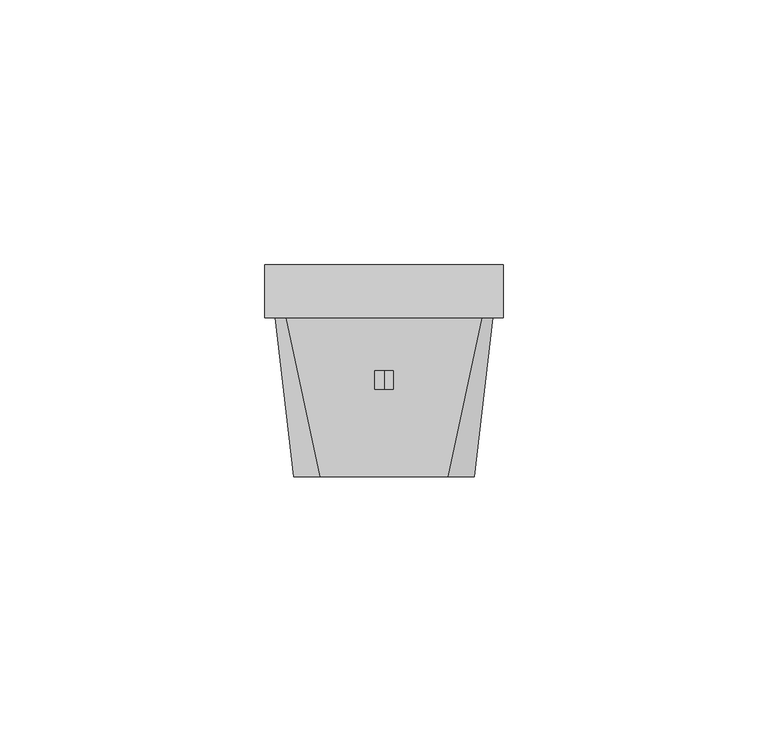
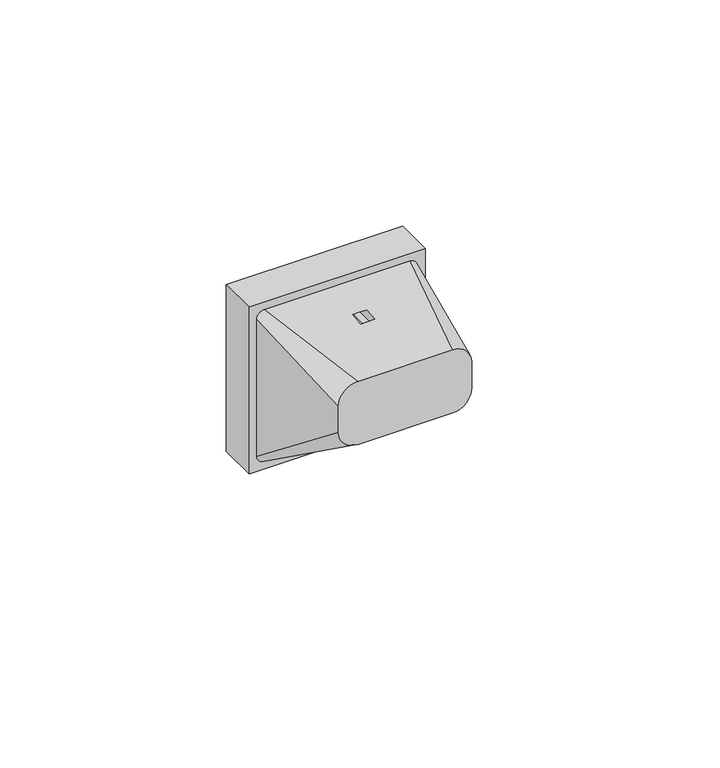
"""IFC4 building model written with IfcOpenShell, lengths in millimetres: proxy geometry, IEK_Skandy_Механизм розетки 230В : 230 В+шт._SK-R01B."""

from ifc_helpers import new_model, si_unit, point, frame, frame_2d, origin, origin_2d, place, context, project, spatial, polyline, circle_curve, ellipse_curve, trimmed, segment, composite_curve, outline, extrude, source, transform, mapped, element, save
from ifc_brep_helpers import plane_surface, cylinder_surface, revolved_surface, spline_surface, advanced_brep


def electrical_fixtures_3626f2ef(model_context):
    return source(origin(), model_context, "Body", "SolidModel", [
        advanced_brep(
        [(-12.0, -30.0, 17.0), (-17.0, -30.0, 12.0), (-17.0, -30.0, 5.0), (-12.0, -30.0, 0.0), (12.0, -30.0, 0.0), (17.0, -30.0, 5.0), (17.0, -30.0, 12.0), (12.0, -30.0, 17.0), (-18.5, 0.0, 20.5), (18.5, 0.0, 20.5), (20.5, 0.0, 18.5), (20.5, 0.0, -18.5), (18.5, 0.0, -20.5), (-18.5, 0.0, -20.5), (-20.5, 0.0, -18.5), (-20.5, 0.0, 18.5), (6.3904783, 0.0, 0.0), (11.8753617, 0.0, 0.0), (-3.0105286, 0.0, 0.0), (3.0105286, 0.0, 0.0), (-11.8753617, 0.0, 0.0), (-6.3904783, 0.0, 0.0), (1.7917908, 0.0, -19.3280847), (1.7917908, 0.0, -16.8280847), (0.0, 0.0, -16.8280847), (-1.7917908, 0.0, -16.8280847), (-1.7917908, 0.0, -19.3280847), (0.0, 0.0, -19.3280847), (1.7917908, 0.0, 19.3280847), (0.0, 0.0, 19.3280847), (-1.7917908, 0.0, 19.3280847), (-1.7917908, 0.0, 16.8280847), (0.0, 0.0, 16.8280847), (1.7917908, 0.0, 16.8280847), (1.7917908, -13.4962918, 18.9254326), (-1.7917908, -13.4962918, 18.9254326), (-1.7917908, -10.0449886, 19.3280847), (0.0, -10.0449886, 19.3280847), (1.7917908, -10.0449886, 19.3280847), (1.7917908, -5.3735346, -16.8280847), (1.7917908, -1.7149981, -19.3280847), (0.0, -1.7149981, -19.3280847), (-1.7917908, -1.7149981, -19.3280847), (-1.7917908, -5.3735346, -16.8280847), (0.0, -5.3735346, -16.8280847), (6.3904783, -13.4962918, 0.0), (11.8753617, -13.4962918, 0.0), (-3.0105286, -13.4962918, 0.0), (3.0105286, -13.4962918, 0.0), (-11.8753617, -13.4962918, 0.0), (-6.3904783, -13.4962918, 0.0), (1.7917908, -13.4962918, 16.8280847), (0.0, -13.4962918, 16.8280847), (-1.7917908, -13.4962918, 16.8280847)],
        [
            (0, 1, circle_curve(frame((-12.0, -30.0, 12.0), z_axis=(0.0, -1.0, 0.0), x_axis=(1.0, 0.0, 0.0)), 5.0)),
            (1, 2),
            (2, 3, circle_curve(frame((-12.0, -30.0, 5.0), z_axis=(0.0, -1.0, 0.0), x_axis=(1.0, 0.0, 0.0)), 5.0)),
            (3, 4),
            (4, 5, circle_curve(frame((12.0, -30.0, 5.0), z_axis=(0.0, -1.0, 0.0), x_axis=(1.0, 0.0, 0.0)), 5.0)),
            (5, 6),
            (6, 7, circle_curve(frame((12.0, -30.0, 12.0), z_axis=(0.0, -1.0, 0.0), x_axis=(1.0, 0.0, 0.0)), 5.0)),
            (7, 0),
            (8, 9),
            (9, 10, circle_curve(frame((18.5, 0.0, 18.5), z_axis=(0.0, 1.0, 0.0), x_axis=(1.0, 0.0, 0.0)), 2.0)),
            (10, 11),
            (11, 12, circle_curve(frame((18.5, 0.0, -18.5), z_axis=(0.0, 1.0, 0.0), x_axis=(1.0, 0.0, 0.0)), 2.0)),
            (12, 13),
            (13, 14, circle_curve(frame((-18.5, 0.0, -18.5), z_axis=(0.0, 1.0, 0.0), x_axis=(1.0, 0.0, 0.0)), 2.0)),
            (14, 15),
            (15, 8, circle_curve(frame((-18.5, 0.0, 18.5), z_axis=(0.0, 1.0, 0.0), x_axis=(1.0, 0.0, 0.0)), 2.0)),
            (16, 17, circle_curve(frame((9.13292, 0.0, 0.0), z_axis=(0.0, -1.0, 0.0), x_axis=(1.0, 0.0, 0.0)), 2.7424417)),
            (17, 16, circle_curve(frame((9.13292, 0.0, 0.0), z_axis=(0.0, -1.0, 0.0), x_axis=(1.0, 0.0, 0.0)), 2.7424417)),
            (18, 19, circle_curve(frame((0.0, 0.0, 0.0), z_axis=(0.0, -1.0, 0.0), x_axis=(1.0, 0.0, 0.0)), 3.0105286)),
            (19, 18, circle_curve(frame((0.0, 0.0, 0.0), z_axis=(0.0, -1.0, 0.0), x_axis=(1.0, 0.0, 0.0)), 3.0105286)),
            (20, 21, circle_curve(frame((-9.13292, 0.0, 0.0), z_axis=(0.0, -1.0, 0.0), x_axis=(1.0, 0.0, 0.0)), 2.7424417)),
            (21, 20, circle_curve(frame((-9.13292, 0.0, 0.0), z_axis=(0.0, -1.0, 0.0), x_axis=(1.0, 0.0, 0.0)), 2.7424417)),
            (22, 23),
            (23, 24),
            (24, 25),
            (25, 26),
            (26, 27),
            (27, 22),
            (28, 29),
            (29, 30),
            (30, 31),
            (31, 32),
            (32, 33),
            (33, 28),
            (7, 9),
            (8, 0),
            (34, 35),
            (35, 36),
            (36, 37),
            (37, 38),
            (38, 34),
            (6, 10),
            (5, 11),
            (4, 12),
            (3, 13),
            (39, 40),
            (40, 41),
            (41, 42),
            (42, 43),
            (43, 44),
            (44, 39),
            (2, 14),
            (1, 15),
            (45, 46, circle_curve(frame((9.13292, -13.4962918, 0.0), z_axis=(0.0, 1.0, 0.0), x_axis=(1.0, 0.0, 0.0)), 2.7424417)),
            (46, 45, circle_curve(frame((9.13292, -13.4962918, 0.0), z_axis=(0.0, 1.0, 0.0), x_axis=(1.0, 0.0, 0.0)), 2.7424417)),
            (47, 48, circle_curve(frame((0.0, -13.4962918, 0.0), z_axis=(0.0, 1.0, 0.0), x_axis=(1.0, 0.0, 0.0)), 3.0105286)),
            (48, 47, circle_curve(frame((0.0, -13.4962918, 0.0), z_axis=(0.0, 1.0, 0.0), x_axis=(1.0, 0.0, 0.0)), 3.0105286)),
            (49, 50, circle_curve(frame((-9.13292, -13.4962918, 0.0), z_axis=(0.0, 1.0, 0.0), x_axis=(1.0, 0.0, 0.0)), 2.7424417)),
            (50, 49, circle_curve(frame((-9.13292, -13.4962918, 0.0), z_axis=(0.0, 1.0, 0.0), x_axis=(1.0, 0.0, 0.0)), 2.7424417)),
            (51, 52),
            (52, 53),
            (53, 35),
            (34, 51),
            (46, 17),
            (16, 45),
            (48, 19),
            (18, 47),
            (50, 21),
            (20, 49),
            (28, 38),
            (37, 29),
            (36, 30),
            (53, 31),
            (52, 32),
            (51, 33),
            (22, 40),
            (39, 23),
            (44, 24),
            (43, 25),
            (42, 26),
            (41, 27),
        ],
        [
            plane_surface(frame((0.0, -30.0, 8.5), z_axis=(0.0, -1.0, 0.0), x_axis=(-1.0, 0.0, 0.0))),
            plane_surface(frame((0.0, 0.0, 0.0), z_axis=(0.0, 1.0, 0.0), x_axis=(-1.0, 0.0, 0.0))),
            plane_surface(frame((0.0, 0.0, 20.5), z_axis=(0.0, -0.11588069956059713, 0.9932631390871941), x_axis=(-1.0, 0.0, 0.0))),
            spline_surface(2, 1, [[(20.5, 0.0, 18.5), (17.0, -30.0, 12.0)], [(20.5, 0.0, 20.5), (17.0, -30.0, 17.0)], [(18.5, 0.0, 20.5), (12.0, -30.0, 17.0)]], [3, 3], [2, 2], [0.0, 1.0], [0.0, 1.0], weights=[[1.0, 1.0], [0.7071067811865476, 0.7071067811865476], [1.0, 1.0]]),
            plane_surface(frame((20.5, 0.0, 0.0), z_axis=(0.993263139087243, -0.11588069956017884, 0.0), x_axis=(0.0, 0.0, 1.0))),
            spline_surface(2, 1, [[(18.5, 0.0, -20.5), (12.0, -30.0, 0.0)], [(20.5, 0.0, -20.5), (17.0, -30.0, 0.0)], [(20.5, 0.0, -18.5), (17.0, -30.0, 5.0)]], [3, 3], [2, 2], [0.0, 1.0], [0.0, 1.0], weights=[[1.0, 1.0], [0.7071067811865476, 0.7071067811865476], [1.0, 1.0]]),
            plane_surface(frame((0.0, 0.0, -20.5), z_axis=(0.0, -0.5641905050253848, -0.8256446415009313), x_axis=(1.0, 0.0, 0.0))),
            spline_surface(2, 1, [[(-20.5, 0.0, -18.5), (-17.0, -30.0, 5.0)], [(-20.5, 0.0, -20.5), (-17.0, -30.0, 0.0)], [(-18.5, 0.0, -20.5), (-12.0, -30.0, 0.0)]], [3, 3], [2, 2], [0.0, 1.0], [0.0, 1.0], weights=[[1.0, 1.0], [0.7071067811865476, 0.7071067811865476], [1.0, 1.0]]),
            plane_surface(frame((-20.5, 0.0, 0.0), z_axis=(-0.9932631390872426, -0.11588069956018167, 0.0), x_axis=(0.0, 0.0, -1.0))),
            spline_surface(2, 1, [[(-18.5, 0.0, 20.5), (-12.0, -30.0, 17.0)], [(-20.5, 0.0, 20.5), (-17.0, -30.0, 17.0)], [(-20.5, 0.0, 18.5), (-17.0, -30.0, 12.0)]], [3, 3], [2, 2], [0.0, 1.0], [0.0, 1.0], weights=[[1.0, 1.0], [0.7071067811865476, 0.7071067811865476], [1.0, 1.0]]),
            plane_surface(frame((11.8753617, -13.4962918, 0.0), z_axis=(0.0, 1.0, 0.0), x_axis=(0.0, 0.0, 1.0))),
            revolved_surface(polyline([(11.875361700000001, -13.4962918, 0.0), (11.875361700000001, 0.0, 0.0)]), (9.13292, 0.0, 0.0), (0.0, -1.0, 0.0)),
            revolved_surface(polyline([(3.0105286, -13.4962918, 0.0), (3.0105286, 0.0, 0.0)]), (0.0, -2.0, 0.0), (0.0, -1.0, 0.0)),
            revolved_surface(polyline([(-6.3904783, -13.4962918, 0.0), (-6.3904783, 0.0, 0.0)]), (-9.13292, -2.0, 0.0), (0.0, -1.0, 0.0)),
            plane_surface(frame((1.7917908, -13.4962918, 19.3280847), z_axis=(0.0, 0.0, -1.0), x_axis=(0.0, 1.0, 0.0))),
            plane_surface(frame((0.0, -13.4962918, 19.3280847), z_axis=(0.0, 0.0, -1.0), x_axis=(0.0, 1.0, 0.0))),
            plane_surface(frame((-1.7917908, -13.4962918, 19.3280847), z_axis=(1.0, 0.0, 0.0), x_axis=(0.0, 1.0, 0.0))),
            plane_surface(frame((-1.7917908, -13.4962918, 16.8280847), z_axis=(0.0, 0.0, 1.0), x_axis=(0.0, 1.0, 0.0))),
            plane_surface(frame((0.0, -13.4962918, 16.8280847), z_axis=(0.0, 0.0, 1.0), x_axis=(0.0, 1.0, 0.0))),
            plane_surface(frame((1.7917908, -13.4962918, 16.8280847), z_axis=(-1.0, 0.0, 0.0), x_axis=(0.0, 1.0, 0.0))),
            plane_surface(frame((1.7917908, -13.4962918, -19.3280847), z_axis=(-1.0, 0.0, 0.0), x_axis=(0.0, 1.0, 0.0))),
            plane_surface(frame((1.7917908, -13.4962918, -16.8280847), z_axis=(0.0, 0.0, -1.0), x_axis=(0.0, 1.0, 0.0))),
            plane_surface(frame((0.0, -13.4962918, -16.8280847), z_axis=(0.0, 0.0, -1.0), x_axis=(0.0, 1.0, 0.0))),
            plane_surface(frame((-1.7917908, -13.4962918, -16.8280847), z_axis=(1.0, 0.0, 0.0), x_axis=(0.0, 1.0, 0.0))),
            plane_surface(frame((-1.7917908, -13.4962918, -19.3280847), z_axis=(0.0, 0.0, 1.0), x_axis=(0.0, 1.0, 0.0))),
            plane_surface(frame((0.0, -13.4962918, -19.3280847), z_axis=(0.0, 0.0, 1.0), x_axis=(0.0, 1.0, 0.0))),
        ],
        [
            (0, [[1, 2, 3, 4, 5, 6, 7, 8]]),
            (1, [[9, 10, 11, 12, 13, 14, 15, 16], [17, 18], [19, 20], [21, 22], [23, 24, 25, 26, 27, 28], [29, 30, 31, 32, 33, 34]]),
            (2, [[-8, 35, -9, 36], [37, 38, 39, 40, 41]]),
            (3, [[-7, 42, -10, -35]]),
            (4, [[-6, 43, -11, -42]]),
            (5, [[-5, 44, -12, -43]]),
            (6, [[-4, 45, -13, -44], [46, 47, 48, 49, 50, 51]]),
            (7, [[-3, 52, -14, -45]]),
            (8, [[-2, 53, -15, -52]]),
            (9, [[-1, -36, -16, -53]]),
            (10, [[54, 55]]),
            (10, [[56, 57]]),
            (10, [[58, 59]]),
            (10, [[60, 61, 62, -37, 63]]),
            (11, [[-55, 64, -17, 65]]),
            (11, [[-54, -65, -18, -64]]),
            (12, [[-57, 66, -19, 67]]),
            (12, [[-56, -67, -20, -66]]),
            (13, [[-59, 68, -21, 69]]),
            (13, [[-58, -69, -22, -68]]),
            (14, [[70, -40, 71, -29]]),
            (15, [[-71, -39, 72, -30]]),
            (16, [[73, -31, -72, -38, -62]]),
            (17, [[-61, 74, -32, -73]]),
            (18, [[-60, 75, -33, -74]]),
            (19, [[-75, -63, -41, -70, -34]]),
            (20, [[76, -46, 77, -23]]),
            (21, [[-77, -51, 78, -24]]),
            (22, [[-78, -50, 79, -25]]),
            (23, [[-79, -49, 80, -26]]),
            (24, [[-80, -48, 81, -27]]),
            (25, [[-76, -28, -81, -47]]),
        ],
    ),
        extrude(outline(polyline([(22.5, -22.5), (-22.5, -22.5), (-22.5, 22.5), (22.5, 22.5), (22.5, -22.5)]), holes=[composite_curve([segment(trimmed(circle_curve(origin_2d(), 20.0), [point((0.0, 20.0))], [point((0.0, -20.0))], True, "CARTESIAN"), True, "CONTINUOUS"), segment(trimmed(circle_curve(origin_2d(), 20.0), [point((0.0, -20.0))], [point((0.0, 20.0))], True, "CARTESIAN"), True, "CONTINUOUS")], self_intersect=False)]), frame((0.0, 0.0, 0.0), z_axis=(0.0, 1.0, 0.0), x_axis=(0.0, 0.0, 1.0)), (0.0, 0.0, 1.0), 10.0),
        advanced_brep(
        [(0.0, 1.078125, -2.8986917), (0.0, 1.078125, 2.8986917), (0.0, 1.8649081, 0.0), (0.0, -0.7, -2.8986917), (0.0, -0.7, 2.8986917), (0.0, -0.7, 0.0)],
        [
            (0, 1, circle_curve(frame((0.0, 1.078125, 0.0), z_axis=(0.0, 1.0, 0.0), x_axis=(0.0, 0.0, 1.0)), 2.8986917)),
            (1, 2, ellipse_curve(frame((0.0, 1.078125, 0.15625), z_axis=(-1.0, 0.0, 0.0), x_axis=(0.0, 0.0, 1.0)), 2.7424417, 0.7880633)),
            (2, 0, ellipse_curve(frame((0.0, 1.078125, -0.15625), z_axis=(-1.0, 0.0, 0.0), x_axis=(0.0, 0.0, -1.0)), 2.7424417, 0.7880633)),
            (1, 0, circle_curve(frame((0.0, 1.078125, 0.0), z_axis=(0.0, 1.0, 0.0), x_axis=(0.0, 0.0, 1.0)), 2.8986917)),
            (3, 4, circle_curve(frame((0.0, -0.7, 0.0), z_axis=(0.0, 1.0, 0.0), x_axis=(0.0, 0.0, 1.0)), 2.8986917)),
            (4, 1),
            (0, 3),
            (4, 3, circle_curve(frame((0.0, -0.7, 0.0), z_axis=(0.0, 1.0, 0.0), x_axis=(0.0, 0.0, 1.0)), 2.8986917)),
            (5, 4),
            (3, 5),
        ],
        [
            revolved_surface(trimmed(ellipse_curve(frame((0.0, 1.078125, 0.15625), z_axis=(1.0, 0.0, 0.0), x_axis=(0.0, 0.0, 1.0)), 2.7424417, 0.7880633), [point((0.0, 1.8649081, 0.0))], [point((0.0, 1.078125, 2.8986917))], True, "CARTESIAN"), (0.0, -2.0228134, 0.0), (0.0, -1.0, 0.0)),
            cylinder_surface(frame((0.0, -2.0228134, 0.0), z_axis=(0.0, -1.0, 0.0), x_axis=(0.0, 0.0, 1.0)), 2.8986917),
            plane_surface(frame((0.0, -0.7, 0.0), z_axis=(0.0, -1.0, 0.0), x_axis=(0.0, 0.0, 1.0))),
        ],
        [
            (0, [[1, 2, 3]]),
            (0, [[4, -3, -2]]),
            (1, [[5, 6, -1, 7]]),
            (1, [[8, -7, -4, -6]]),
            (2, [[9, -5, 10]]),
            (2, [[-10, -8, -9]]),
        ],
    ),
        extrude(outline(composite_curve([segment(trimmed(circle_curve(origin_2d(), 20.0), [point((0.0, -20.0))], [point((0.0, 20.0))], False, "CARTESIAN"), True, "CONTINUOUS"), segment(trimmed(circle_curve(origin_2d(), 20.0), [point((0.0, 20.0))], [point((0.0, -20.0))], False, "CARTESIAN"), True, "CONTINUOUS")], self_intersect=False), holes=[composite_curve([segment(trimmed(circle_curve(frame_2d((0.0, 9.13292)), 2.7424417), [point((0.0, 6.3904783))], [point((0.0, 11.8753617))], True, "CARTESIAN"), True, "CONTINUOUS"), segment(trimmed(circle_curve(frame_2d((0.0, 9.13292)), 2.7424417), [point((0.0, 11.8753617))], [point((0.0, 6.3904783))], True, "CARTESIAN"), True, "CONTINUOUS")], self_intersect=False), composite_curve([segment(trimmed(circle_curve(frame_2d((0.0, -9.13292)), 2.7424417), [point((0.0, -11.8753617))], [point((0.0, -6.3904783))], True, "CARTESIAN"), True, "CONTINUOUS"), segment(trimmed(circle_curve(frame_2d((0.0, -9.13292)), 2.7424417), [point((0.0, -6.3904783))], [point((0.0, -11.8753617))], True, "CARTESIAN"), True, "CONTINUOUS")], self_intersect=False), composite_curve([segment(trimmed(circle_curve(origin_2d(), 3.0105286), [point((0.0, -3.0105286))], [point((0.0, 3.0105286))], True, "CARTESIAN"), True, "CONTINUOUS"), segment(trimmed(circle_curve(origin_2d(), 3.0105286), [point((0.0, 3.0105286))], [point((0.0, -3.0105286))], True, "CARTESIAN"), True, "CONTINUOUS")], self_intersect=False)]), frame((0.0, 0.0, 0.0), z_axis=(0.0, 1.0, 0.0), x_axis=(0.0, 0.0, 1.0)), (0.0, 0.0, 1.0), 1.0),
    ])


if __name__ == "__main__":
    model = new_model("IFC4")
    model_context = context("Model", 3, world=origin())
    ifc_project = project(units=[si_unit("LENGTHUNIT", "METRE", prefix="MILLI")], contexts=[model_context])
    site = spatial("IfcSite", under=ifc_project)
    building = spatial("IfcBuilding", under=site)
    placement = place(None, origin())
    electrical_fixtures_shape = electrical_fixtures_3626f2ef(model_context)
    element("IfcBuildingElementProxy", 1, Name="IEK_Skandy_Механизм розетки 230В : 230 В+шт._SK-R01B", ObjectType="IEK_Skandy_Механизм розетки 230В : 230 В+шт._SK-R01B", at=placement, inside=building, context=model_context, shape_type="MappedRepresentation", body=[
        mapped(electrical_fixtures_shape, transform((0.0, 0.0, 0.0), x_axis=(1.0, 0.0, 0.0), y_axis=(0.0, 1.0, 0.0), z_axis=(0.0, 0.0, 1.0))),
    ])
    save(model, "model.ifc")
